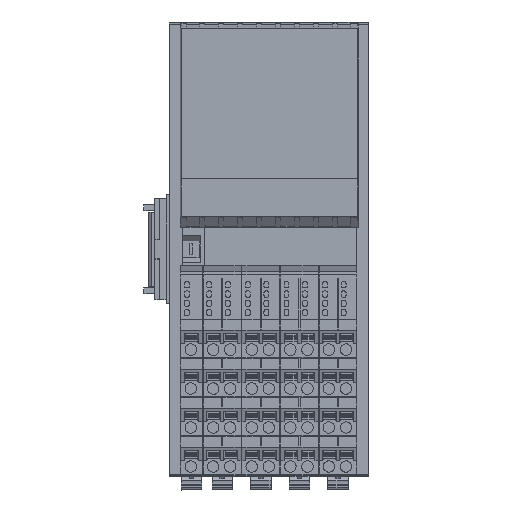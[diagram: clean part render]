
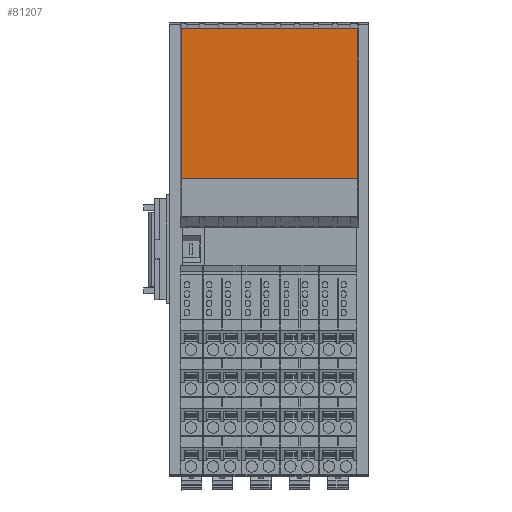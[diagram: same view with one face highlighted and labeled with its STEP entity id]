
A CAD part, top view. The second image highlights one B-rep face of the part: STEP entity #81207.
In plain terms, the highlighted planar face has unit normal (0, 0, 1).
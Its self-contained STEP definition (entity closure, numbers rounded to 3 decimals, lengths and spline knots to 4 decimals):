
#25678=DIRECTION('',(0.,1.,0.));
#25679=VECTOR('',#25678,1.5947);
#25680=CARTESIAN_POINT('',(0.1006,0.058,
1.7343));
#25681=LINE('',#25680,#25679);
#27342=DIRECTION('',(-1.,0.,0.));
#27343=VECTOR('',#27342,1.8697);
#27344=CARTESIAN_POINT('',(1.9703,0.058,
1.7343));
#27345=LINE('',#27344,#27343);
#27346=DIRECTION('',(0.,1.,0.));
#27347=VECTOR('',#27346,1.5947);
#27348=CARTESIAN_POINT('',(1.9703,0.058,
1.7343));
#27349=LINE('',#27348,#27347);
#27354=DIRECTION('',(1.,0.,0.));
#27355=VECTOR('',#27354,1.8697);
#27356=CARTESIAN_POINT('',(0.1006,1.6527,
1.7343));
#27357=LINE('',#27356,#27355);
#41148=CARTESIAN_POINT('',(1.9703,1.6527,1.7343));
#41149=VERTEX_POINT('',#41148);
#41150=CARTESIAN_POINT('',(0.1006,1.6527,
1.7343));
#41151=VERTEX_POINT('',#41150);
#41164=CARTESIAN_POINT('',(1.9703,0.058,
1.7343));
#41165=VERTEX_POINT('',#41164);
#41256=CARTESIAN_POINT('',(0.1006,0.058,
1.7343));
#41257=VERTEX_POINT('',#41256);
#81195=CARTESIAN_POINT('',(3.659,-2.6752,
1.7343));
#81196=DIRECTION('',(0.,0.,-1.));
#81197=DIRECTION('',(0.,-1.,0.));
#81198=AXIS2_PLACEMENT_3D('',#81195,#81196,#81197);
#81199=PLANE('',#81198);
#81201=ORIENTED_EDGE('',*,*,#81200,.T.);
#81202=ORIENTED_EDGE('',*,*,#79873,.F.);
#81203=ORIENTED_EDGE('',*,*,#81190,.T.);
#81204=ORIENTED_EDGE('',*,*,#78973,.T.);
#81205=EDGE_LOOP('',(#81201,#81202,#81203,#81204));
#81206=FACE_OUTER_BOUND('',#81205,.F.);
#81207=ADVANCED_FACE('',(#81206),#81199,.F.);
#78973=EDGE_CURVE('',#41257,#41151,#25681,.T.);
#79873=EDGE_CURVE('',#41165,#41149,#27349,.T.);
#81190=EDGE_CURVE('',#41165,#41257,#27345,.T.);
#81200=EDGE_CURVE('',#41151,#41149,#27357,.T.);
